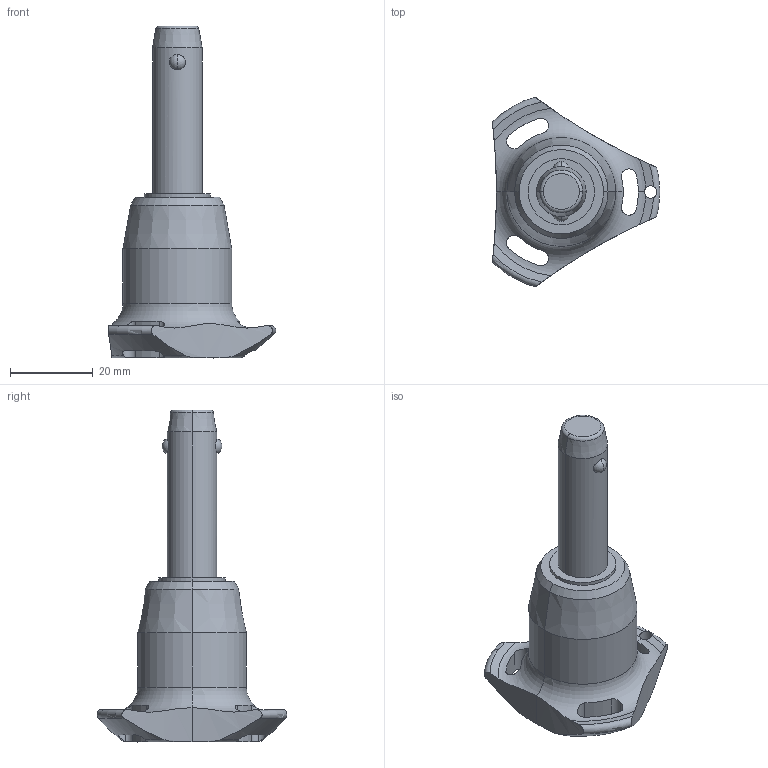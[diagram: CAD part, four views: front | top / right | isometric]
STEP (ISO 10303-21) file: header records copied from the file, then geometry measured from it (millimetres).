
FILE_DESCRIPTION (( 'STEP AP203' ), '1' );
FILE_NAME ('QR1714.M12-030-S.step', '2025-11-12T10:13:13', ( '' ), ( '' ), 'SwSTEP 2.0', 'SolidWorks 2019', '' );
FILE_SCHEMA (( 'CONFIG_CONTROL_DESIGN' ));
Length unit declared in the file: millimetre
Products named in the file (1): QR1714.M12-030-S
Bounding box: 40.5 x 45.88 x 80.3 mm (x, y, z)
Volume: 26528.1 mm3; surface area: 7468.6 mm2
Topology: 1 solids, 1 shells, 65 faces, 178 edges, 113 vertices
Faces by surface type: cylinder 30, cone 14, torus 11, sphere 6, plane 4
Entity records: 2862 total; most frequent: CARTESIAN_POINT 1173, ORIENTED_EDGE 356, DIRECTION 329, EDGE_CURVE 178, AXIS2_PLACEMENT_3D 147, VERTEX_POINT 113, CIRCLE 81, EDGE_LOOP 71
